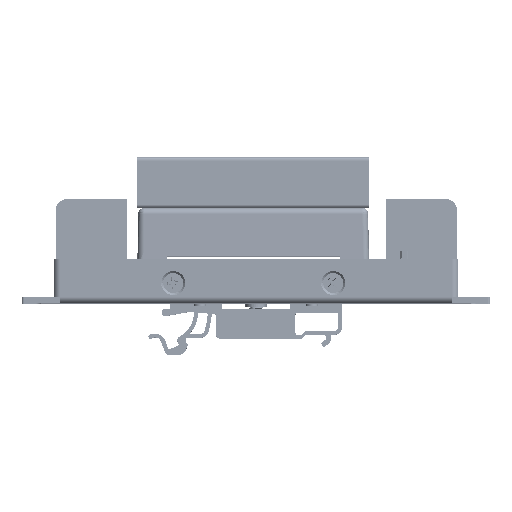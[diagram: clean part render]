
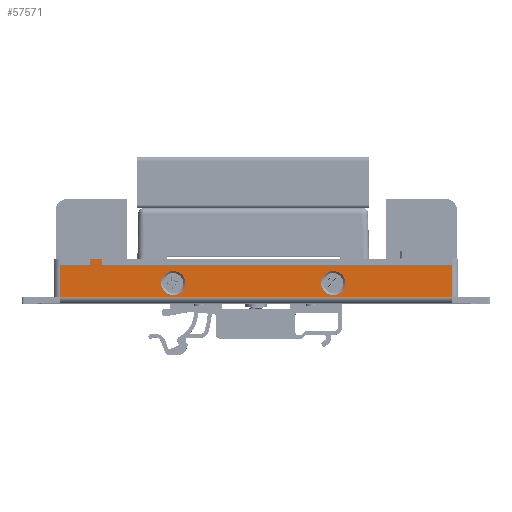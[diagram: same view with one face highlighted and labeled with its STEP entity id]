
A CAD part, top view. The second image highlights one B-rep face of the part: STEP entity #57571.
In plain terms, the highlighted planar face has unit normal (0, 0, 1).
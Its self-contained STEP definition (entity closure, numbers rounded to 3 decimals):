
#32058 = CARTESIAN_POINT ( 'NONE',  ( -23.7, 5.1, 32.3 ) ) ;
#32107 = CARTESIAN_POINT ( 'NONE',  ( -17.7, 5.1, 32.3 ) ) ;
#32254 = CARTESIAN_POINT ( 'NONE',  ( 16.3, 5.1, 32.3 ) ) ;
#32282 = DIRECTION ( 'NONE',  ( 1., 0., 0. ) ) ;
#32283 = DIRECTION ( 'NONE',  ( 0., 0., 1. ) ) ;
#32284 = CARTESIAN_POINT ( 'NONE',  ( -20.7, 5.1, 32.3 ) ) ;
#32285 = AXIS2_PLACEMENT_3D ( 'NONE', #32284, #32283, #32282 ) ;
#32286 = CIRCLE ( 'NONE', #32285, 3. ) ;
#32297 = CARTESIAN_POINT ( 'NONE',  ( 22.3, 5.1, 32.3 ) ) ;
#32298 = DIRECTION ( 'NONE',  ( 1., 0., 0. ) ) ;
#32299 = DIRECTION ( 'NONE',  ( 0., 0., 1. ) ) ;
#32300 = CARTESIAN_POINT ( 'NONE',  ( 19.3, 5.1, 32.3 ) ) ;
#32301 = AXIS2_PLACEMENT_3D ( 'NONE', #32300, #32299, #32298 ) ;
#32302 = CIRCLE ( 'NONE', #32301, 3. ) ;
#33971 = CARTESIAN_POINT ( 'NONE',  ( -41.5, 9.6, 32.3 ) ) ;
#34114 = CARTESIAN_POINT ( 'NONE',  ( 49., 9.6, 32.3 ) ) ;
#34115 = DIRECTION ( 'NONE',  ( -1., 0., 0. ) ) ;
#34116 = VECTOR ( 'NONE', #34115, 1000. ) ;
#34117 = CARTESIAN_POINT ( 'NONE',  ( 49., 9.6, 32.3 ) ) ;
#34118 = LINE ( 'NONE', #34117, #34116 ) ;
#34120 = CARTESIAN_POINT ( 'NONE',  ( -38.5, 9.6, 32.3 ) ) ;
#34137 = DIRECTION ( 'NONE',  ( -1., 0., 0. ) ) ;
#34138 = VECTOR ( 'NONE', #34137, 1000. ) ;
#34139 = CARTESIAN_POINT ( 'NONE',  ( 49., 9.6, 32.3 ) ) ;
#34140 = LINE ( 'NONE', #34139, #34138 ) ;
#34141 = CARTESIAN_POINT ( 'NONE',  ( -49., 9.6, 32.3 ) ) ;
#34272 = CARTESIAN_POINT ( 'NONE',  ( -49., 1.6, 32.3 ) ) ;
#34273 = CARTESIAN_POINT ( 'NONE',  ( -49., 1.7, 32.3 ) ) ;
#34274 = DIRECTION ( 'NONE',  ( 0., -1., 0. ) ) ;
#34275 = VECTOR ( 'NONE', #34274, 1000. ) ;
#34276 = CARTESIAN_POINT ( 'NONE',  ( -49., 1.6, 32.3 ) ) ;
#34277 = LINE ( 'NONE', #34276, #34275 ) ;
#34378 = CARTESIAN_POINT ( 'NONE',  ( 49., 1.6, 32.3 ) ) ;
#34379 = DIRECTION ( 'NONE',  ( 0., -1., 0. ) ) ;
#34380 = VECTOR ( 'NONE', #34379, 1000. ) ;
#34381 = CARTESIAN_POINT ( 'NONE',  ( 49., 1.6, 32.3 ) ) ;
#34382 = LINE ( 'NONE', #34381, #34380 ) ;
#34383 = CARTESIAN_POINT ( 'NONE',  ( 49., 1.7, 32.3 ) ) ;
#34389 = CARTESIAN_POINT ( 'NONE',  ( -38.5, 11.2, 32.3 ) ) ;
#34390 = DIRECTION ( 'NONE',  ( 1., 0., 0. ) ) ;
#34391 = DIRECTION ( 'NONE',  ( 0., 0., 1. ) ) ;
#34392 = AXIS2_PLACEMENT_3D ( 'NONE', #34397, #34391, #34390 ) ;
#34393 = CIRCLE ( 'NONE', #34392, 3. ) ;
#34397 = CARTESIAN_POINT ( 'NONE',  ( 19.3, 5.1, 32.3 ) ) ;
#34442 = DIRECTION ( 'NONE',  ( 0., 1., 0. ) ) ;
#34443 = VECTOR ( 'NONE', #34442, 1000. ) ;
#34444 = CARTESIAN_POINT ( 'NONE',  ( 49., 9.6, 32.3 ) ) ;
#34445 = LINE ( 'NONE', #34444, #34443 ) ;
#34446 = DIRECTION ( 'NONE',  ( -1., 0., 0. ) ) ;
#34447 = VECTOR ( 'NONE', #34446, 1000. ) ;
#34448 = CARTESIAN_POINT ( 'NONE',  ( 49., 1.6, 32.3 ) ) ;
#34449 = LINE ( 'NONE', #34448, #34447 ) ;
#34470 = DIRECTION ( 'NONE',  ( 0., -1., 0. ) ) ;
#34471 = VECTOR ( 'NONE', #34470, 1000. ) ;
#34472 = CARTESIAN_POINT ( 'NONE',  ( -49., 1.7, 32.3 ) ) ;
#34473 = LINE ( 'NONE', #34472, #34471 ) ;
#34474 = DIRECTION ( 'NONE',  ( 0., -1., 0. ) ) ;
#34475 = VECTOR ( 'NONE', #34474, 1000. ) ;
#34476 = CARTESIAN_POINT ( 'NONE',  ( -41.5, 11.2, 32.3 ) ) ;
#34477 = LINE ( 'NONE', #34476, #34475 ) ;
#34478 = CARTESIAN_POINT ( 'NONE',  ( -41.5, 11.2, 32.3 ) ) ;
#34479 = DIRECTION ( 'NONE',  ( 1., 0., 0. ) ) ;
#34480 = VECTOR ( 'NONE', #34479, 1000. ) ;
#34481 = CARTESIAN_POINT ( 'NONE',  ( -41.5, 11.2, 32.3 ) ) ;
#34482 = LINE ( 'NONE', #34481, #34480 ) ;
#34483 = DIRECTION ( 'NONE',  ( 0., -1., 0. ) ) ;
#34484 = VECTOR ( 'NONE', #34483, 1000. ) ;
#34485 = CARTESIAN_POINT ( 'NONE',  ( -38.5, 11.2, 32.3 ) ) ;
#34486 = LINE ( 'NONE', #34485, #34484 ) ;
#34516 = DIRECTION ( 'NONE',  ( 1., 0., 0. ) ) ;
#34517 = DIRECTION ( 'NONE',  ( 0., 0., 1. ) ) ;
#34518 = AXIS2_PLACEMENT_3D ( 'NONE', #34523, #34517, #34516 ) ;
#34519 = CIRCLE ( 'NONE', #34518, 3. ) ;
#34520 = DIRECTION ( 'NONE',  ( -1., 0., 0. ) ) ;
#34521 = DIRECTION ( 'NONE',  ( 0., 0., -1. ) ) ;
#34522 = AXIS2_PLACEMENT_3D ( 'NONE', #34524, #34521, #34520 ) ;
#34523 = CARTESIAN_POINT ( 'NONE',  ( -20.7, 5.1, 32.3 ) ) ;
#34524 = CARTESIAN_POINT ( 'NONE',  ( 49., 1.6, 32.3 ) ) ;
#34525 = PLANE ( 'NONE',  #34522 ) ;
#34526 = FACE_OUTER_BOUND ( 'NONE', #57411, .T. ) ;
#34527 = FACE_BOUND ( 'NONE', #57401, .T. ) ;
#34528 = FACE_BOUND ( 'NONE', #57574, .T. ) ;
#55015 = VERTEX_POINT ( 'NONE', #32058 ) ;
#55068 = VERTEX_POINT ( 'NONE', #32107 ) ;
#55221 = VERTEX_POINT ( 'NONE', #32254 ) ;
#55225 = EDGE_CURVE ( 'NONE', #55221, #55229, #32302, .T. ) ;
#55229 = VERTEX_POINT ( 'NONE', #32297 ) ;
#55244 = EDGE_CURVE ( 'NONE', #55015, #55068, #32286, .T. ) ;
#56956 = VERTEX_POINT ( 'NONE', #33971 ) ;
#57048 = VERTEX_POINT ( 'NONE', #34120 ) ;
#57054 = EDGE_CURVE ( 'NONE', #57056, #57048, #34118, .T. ) ;
#57056 = VERTEX_POINT ( 'NONE', #34114 ) ;
#57095 = VERTEX_POINT ( 'NONE', #34141 ) ;
#57099 = EDGE_CURVE ( 'NONE', #56956, #57095, #34140, .T. ) ;
#57241 = EDGE_CURVE ( 'NONE', #57244, #57246, #34277, .T. ) ;
#57244 = VERTEX_POINT ( 'NONE', #34273 ) ;
#57246 = VERTEX_POINT ( 'NONE', #34272 ) ;
#57398 = ORIENTED_EDGE ( 'NONE', *, *, #55244, .F. ) ;
#57401 = EDGE_LOOP ( 'NONE', ( #57403, #57408 ) ) ;
#57403 = ORIENTED_EDGE ( 'NONE', *, *, #57405, .F. ) ;
#57405 = EDGE_CURVE ( 'NONE', #55229, #55221, #34393, .T. ) ;
#57408 = ORIENTED_EDGE ( 'NONE', *, *, #55225, .F. ) ;
#57411 = EDGE_LOOP ( 'NONE', ( #57413, #57415, #57547, #57553, #57557, #57559, #57564, #57566, #57512, #57514 ) ) ;
#57413 = ORIENTED_EDGE ( 'NONE', *, *, #57054, .T. ) ;
#57415 = ORIENTED_EDGE ( 'NONE', *, *, #57545, .F. ) ;
#57417 = VERTEX_POINT ( 'NONE', #34389 ) ;
#57425 = VERTEX_POINT ( 'NONE', #34383 ) ;
#57429 = EDGE_CURVE ( 'NONE', #57425, #57431, #34382, .T. ) ;
#57431 = VERTEX_POINT ( 'NONE', #34378 ) ;
#57510 = EDGE_CURVE ( 'NONE', #57431, #57246, #34449, .T. ) ;
#57512 = ORIENTED_EDGE ( 'NONE', *, *, #57429, .F. ) ;
#57514 = ORIENTED_EDGE ( 'NONE', *, *, #57516, .T. ) ;
#57516 = EDGE_CURVE ( 'NONE', #57425, #57056, #34445, .T. ) ;
#57545 = EDGE_CURVE ( 'NONE', #57417, #57048, #34486, .T. ) ;
#57547 = ORIENTED_EDGE ( 'NONE', *, *, #57549, .F. ) ;
#57549 = EDGE_CURVE ( 'NONE', #57551, #57417, #34482, .T. ) ;
#57551 = VERTEX_POINT ( 'NONE', #34478 ) ;
#57553 = ORIENTED_EDGE ( 'NONE', *, *, #57555, .T. ) ;
#57555 = EDGE_CURVE ( 'NONE', #57551, #56956, #34477, .T. ) ;
#57557 = ORIENTED_EDGE ( 'NONE', *, *, #57099, .T. ) ;
#57559 = ORIENTED_EDGE ( 'NONE', *, *, #57561, .T. ) ;
#57561 = EDGE_CURVE ( 'NONE', #57095, #57244, #34473, .T. ) ;
#57564 = ORIENTED_EDGE ( 'NONE', *, *, #57241, .T. ) ;
#57566 = ORIENTED_EDGE ( 'NONE', *, *, #57510, .F. ) ;
#57571 = ADVANCED_FACE ( 'NONE', ( #34528, #34527, #34526 ), #34525, .F. ) ;
#57574 = EDGE_LOOP ( 'NONE', ( #57576, #57398 ) ) ;
#57576 = ORIENTED_EDGE ( 'NONE', *, *, #57578, .F. ) ;
#57578 = EDGE_CURVE ( 'NONE', #55068, #55015, #34519, .T. ) ;
